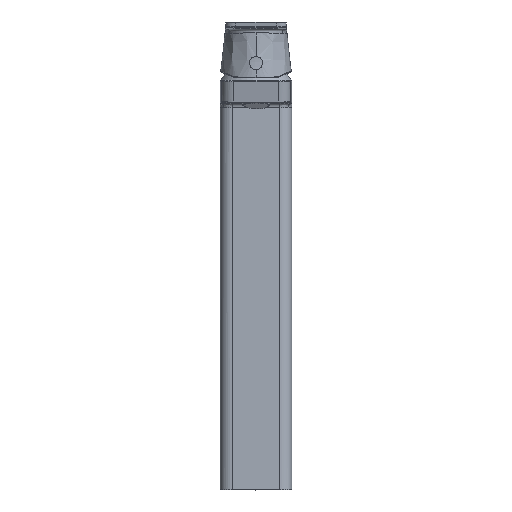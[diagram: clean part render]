
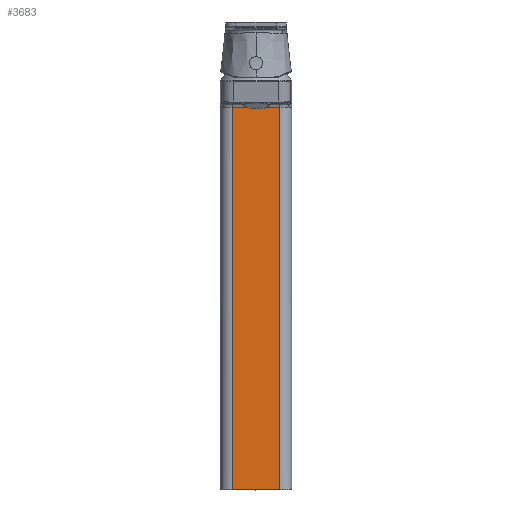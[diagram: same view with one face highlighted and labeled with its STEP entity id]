
A CAD part, top view. The second image highlights one B-rep face of the part: STEP entity #3683.
In plain terms, the highlighted planar face has unit normal (0, 0, 1).
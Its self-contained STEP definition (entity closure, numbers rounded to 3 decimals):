
#254 = DIRECTION ( 'NONE',  ( 0., -1., 0. ) ) ;
#577 = CARTESIAN_POINT ( 'NONE',  ( 16.165, 258., 24.25 ) ) ;
#889 = DIRECTION ( 'NONE',  ( 1., 0., 0. ) ) ;
#909 = EDGE_CURVE ( 'NONE', #2761, #7682, #2840, .T. ) ;
#1083 = AXIS2_PLACEMENT_3D ( 'NONE', #5467, #4828, #4047 ) ;
#1416 = VECTOR ( 'NONE', #3274, 1000. ) ;
#1961 = VECTOR ( 'NONE', #2489, 1000. ) ;
#2020 = ORIENTED_EDGE ( 'NONE', *, *, #2562, .T. ) ;
#2489 = DIRECTION ( 'NONE',  ( 0., 1., 0. ) ) ;
#2562 = EDGE_CURVE ( 'NONE', #2761, #5286, #8267, .T. ) ;
#2761 = VERTEX_POINT ( 'NONE', #8650 ) ;
#2840 = LINE ( 'NONE', #4439, #1961 ) ;
#2926 = VECTOR ( 'NONE', #889, 1000. ) ;
#3050 = FACE_OUTER_BOUND ( 'NONE', #6764, .T. ) ;
#3160 = EDGE_CURVE ( 'NONE', #7536, #5286, #7939, .T. ) ;
#3243 = CARTESIAN_POINT ( 'NONE',  ( 0., 0., 24.25 ) ) ;
#3274 = DIRECTION ( 'NONE',  ( 1., 0., 0. ) ) ;
#3375 = PLANE ( 'NONE',  #1083 ) ;
#3683 = ADVANCED_FACE ( 'NONE', ( #3050 ), #3375, .F. ) ;
#3880 = VECTOR ( 'NONE', #254, 1000. ) ;
#3897 = ORIENTED_EDGE ( 'NONE', *, *, #3160, .F. ) ;
#4047 = DIRECTION ( 'NONE',  ( -1., 0., 0. ) ) ;
#4439 = CARTESIAN_POINT ( 'NONE',  ( -16.165, 303.6, 24.25 ) ) ;
#4828 = DIRECTION ( 'NONE',  ( 0., 0., -1. ) ) ;
#5286 = VERTEX_POINT ( 'NONE', #7519 ) ;
#5467 = CARTESIAN_POINT ( 'NONE',  ( 0., 303.6, 24.25 ) ) ;
#6043 = EDGE_CURVE ( 'NONE', #7682, #7536, #8026, .T. ) ;
#6235 = CARTESIAN_POINT ( 'NONE',  ( 16.165, 303.6, 24.25 ) ) ;
#6365 = CARTESIAN_POINT ( 'NONE',  ( 0., 258., 24.25 ) ) ;
#6386 = ORIENTED_EDGE ( 'NONE', *, *, #6043, .F. ) ;
#6764 = EDGE_LOOP ( 'NONE', ( #6386, #8512, #2020, #3897 ) ) ;
#7519 = CARTESIAN_POINT ( 'NONE',  ( 16.165, 0., 24.25 ) ) ;
#7536 = VERTEX_POINT ( 'NONE', #577 ) ;
#7682 = VERTEX_POINT ( 'NONE', #8121 ) ;
#7939 = LINE ( 'NONE', #6235, #3880 ) ;
#8026 = LINE ( 'NONE', #6365, #2926 ) ;
#8121 = CARTESIAN_POINT ( 'NONE',  ( -16.165, 258., 24.25 ) ) ;
#8267 = LINE ( 'NONE', #3243, #1416 ) ;
#8512 = ORIENTED_EDGE ( 'NONE', *, *, #909, .F. ) ;
#8650 = CARTESIAN_POINT ( 'NONE',  ( -16.165, 0., 24.25 ) ) ;
